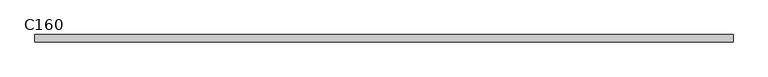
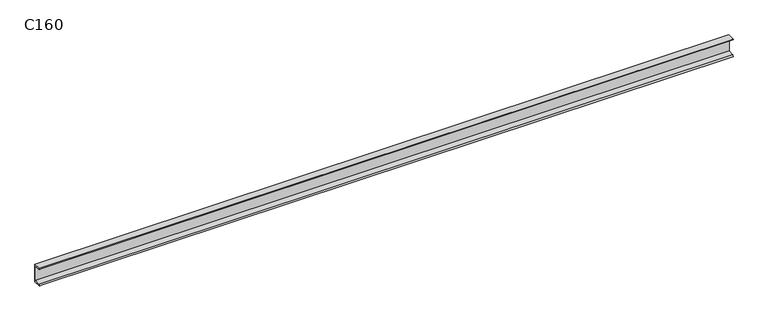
"""IFC4 building model written with IfcOpenShell, lengths in millimetres: beam geometry, RPLN C - Ceowniki normalne : C160."""

from ifc_helpers import new_model, si_unit, point, frame, frame_2d, origin, place, context, project, spatial, polyline, circle_curve, trimmed, segment, composite_curve, outline, extrude, source, transform, mapped, element, save


def c160_03c89e93(model_context):
    return source(origin(), model_context, "Body", "SweptSolid", [
        extrude(outline(composite_curve([segment(polyline([(18.4, 80.0), (18.4, -80.0), (-46.6, -80.0)]), True, "CONTINUOUS"), segment(trimmed(circle_curve(frame_2d((-36.1, -80.0)), 10.5), [point((-46.6, -80.0))], [point((-36.1, -69.5))], False, "CARTESIAN"), True, "CONTINUOUS"), segment(polyline([(-36.1, -69.5), (10.9, -62.0559313), (10.9, 62.0559313), (-36.1, 69.5)]), True, "CONTINUOUS"), segment(trimmed(circle_curve(frame_2d((-36.1, 80.0)), 10.5), [point((-36.1, 69.5))], [point((-46.6, 80.0))], False, "CARTESIAN"), True, "CONTINUOUS"), segment(polyline([(-46.6, 80.0), (18.4, 80.0)]), True, "CONTINUOUS")], self_intersect=False)), frame((-3011.3303171, 0.0, 0.0), z_axis=(1.0, 0.0, 0.0), x_axis=(0.0, 1.0, 0.0)), (0.0, 0.0, 1.0), 6011.3303171),
    ])


if __name__ == "__main__":
    model = new_model("IFC4")
    model_context = context("Model", 3, world=origin())
    ifc_project = project(units=[si_unit("LENGTHUNIT", "METRE", prefix="MILLI")], contexts=[model_context])
    site = spatial("IfcSite", under=ifc_project)
    building = spatial("IfcBuilding", under=site)
    placement = place(None, origin())
    c160_shape = c160_03c89e93(model_context)
    element("IfcBeam", 1, ObjectType="RPLN C - Ceowniki normalne : C160", at=placement, inside=building, context=model_context, shape_type="MappedRepresentation", body=[
        mapped(c160_shape, transform((0.0, 0.0, 0.0), x_axis=(1.0, 0.0, 0.0), y_axis=(0.0, 1.0, 0.0), z_axis=(0.0, 0.0, 1.0))),
    ])
    save(model, "model.ifc")
